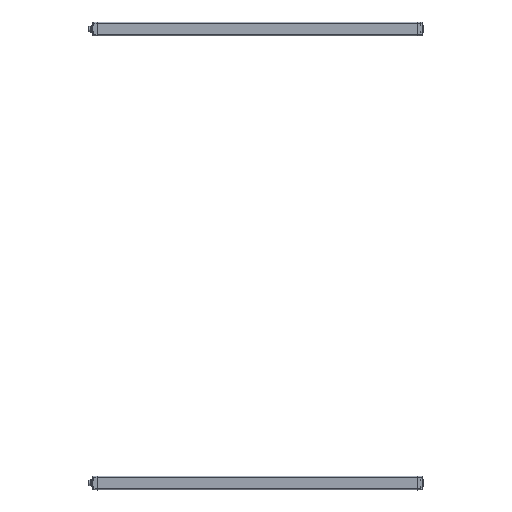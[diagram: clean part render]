
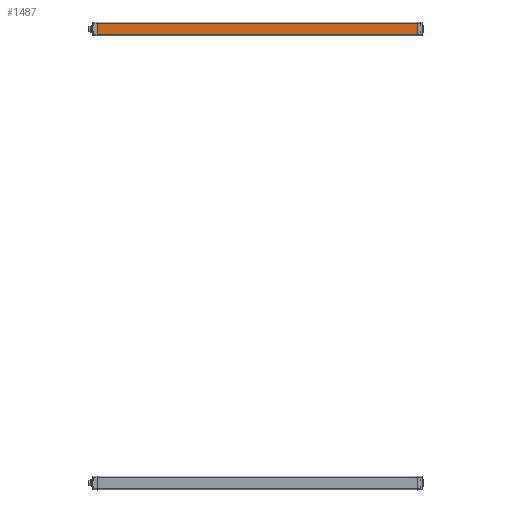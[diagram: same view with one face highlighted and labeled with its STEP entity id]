
A CAD part, front view. The second image highlights one B-rep face of the part: STEP entity #1487.
In plain terms, the highlighted planar face has unit normal (0, -1, 0).
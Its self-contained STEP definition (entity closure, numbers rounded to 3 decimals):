
#1487=ADVANCED_FACE('',(#2027),#11283,.T.);
#2027=FACE_OUTER_BOUND('',#2546,.T.);
#2546=EDGE_LOOP('',(#5822,#5823,#5824,#5825));
#3114=LINE('',#15584,#4287);
#3216=LINE('',#15816,#4389);
#3304=LINE('',#15995,#4477);
#3305=LINE('',#15996,#4478);
#4287=VECTOR('',#12575,1.);
#4389=VECTOR('',#12721,1.);
#4477=VECTOR('',#12911,1.);
#4478=VECTOR('',#12912,1.);
#5822=ORIENTED_EDGE('',*,*,#9464,.T.);
#5823=ORIENTED_EDGE('',*,*,#9673,.T.);
#5824=ORIENTED_EDGE('',*,*,#9581,.F.);
#5825=ORIENTED_EDGE('',*,*,#9674,.F.);
#8471=VERTEX_POINT('',#15583);
#8472=VERTEX_POINT('',#15585);
#8579=VERTEX_POINT('',#15815);
#8580=VERTEX_POINT('',#15817);
#9464=EDGE_CURVE('',#8472,#8471,#3114,.T.);
#9581=EDGE_CURVE('',#8579,#8580,#3216,.T.);
#9673=EDGE_CURVE('',#8471,#8580,#3304,.T.);
#9674=EDGE_CURVE('',#8472,#8579,#3305,.T.);
#11283=PLANE('',#11726);
#11726=AXIS2_PLACEMENT_3D('',#15997,#12913,#12914);
#12575=DIRECTION('',(0.,0.,-1.));
#12721=DIRECTION('',(0.,0.,-1.));
#12911=DIRECTION('',(1.,0.,0.));
#12912=DIRECTION('',(1.,0.,0.));
#12913=DIRECTION('',(0.,-1.,0.));
#12914=DIRECTION('',(0.,0.,-1.));
#15583=CARTESIAN_POINT('',(0.,-15.15,-12.));
#15584=CARTESIAN_POINT('',(0.,-15.15,12.));
#15585=CARTESIAN_POINT('',(0.,-15.15,12.));
#15815=CARTESIAN_POINT('',(725.,-15.15,12.));
#15816=CARTESIAN_POINT('',(725.,-15.15,12.));
#15817=CARTESIAN_POINT('',(725.,-15.15,-12.));
#15995=CARTESIAN_POINT('',(0.,-15.15,-12.));
#15996=CARTESIAN_POINT('',(0.,-15.15,12.));
#15997=CARTESIAN_POINT('',(0.,-15.15,15.65));
